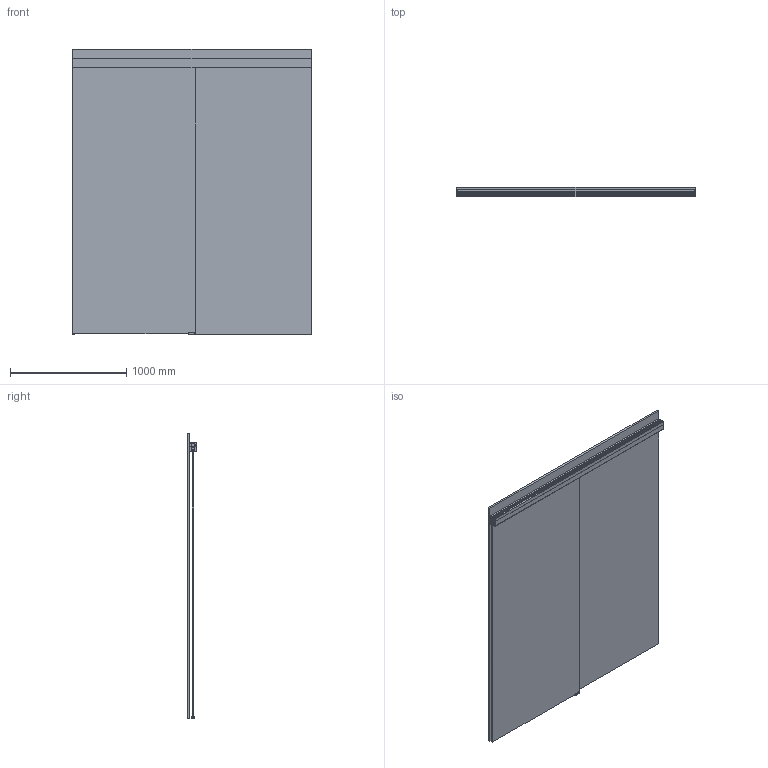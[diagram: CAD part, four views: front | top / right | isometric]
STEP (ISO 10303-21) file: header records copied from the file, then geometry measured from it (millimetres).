
FILE_DESCRIPTION(('STEP AP242'),'1');
FILE_NAME('OPO_56.047.05.stp','2026-01-14T05:21:20',(' '),(' '),'Spatial InterOp 3D',' ',' ');
FILE_SCHEMA(('AP242_MANAGED_MODEL_BASED_3D_ENGINEERING_MIM_LF {1 0 10303 442 1 1 4}'));
Length unit declared in the file: millimetre
Products named in the file (10): Zeichnung2; OPO_56.047.05_Bodenführung_Glas; OPO_65.083.42; OPO_65.082.78; OPO_56.047.05_Laufwerk; OPO_56.047.05_Laufwerk_mit_Daempfer; OPO_56.047.05_Aktivator; OPO_65.082.53; OPO_65.082.53_SCALED_id348_X-1_Y1_Z1; AutoCreatedBlock_1C4
Assembly tree (12 placements, depth 2):
  Zeichnung2
    OPO_56.047.05_Bodenführung_Glas
    OPO_65.083.42  x2
    OPO_65.082.78  x2
    OPO_56.047.05_Laufwerk
    OPO_56.047.05_Laufwerk_mit_Daempfer
    OPO_56.047.05_Aktivator  x2
    OPO_65.082.53
    OPO_65.082.53_SCALED_id348_X-1_Y1_Z1
    AutoCreatedBlock_1C4
Bounding box: 2050 x 80 x 2448 mm (x, y, z)
Volume: 78720442.9 mm3; surface area: 12070312.2 mm2
Topology: 75 solids, 75 shells, 1561 faces, 3966 edges, 2620 vertices
Faces by surface type: plane 913, cylinder 620, cone 28
Entity records: 45705 total; most frequent: CARTESIAN_POINT 6381, DIRECTION 6355, ORIENTED_EDGE 5958, EDGE_CURVE 2979, AXIS2_PLACEMENT_3D 2184, LINE 1987, VECTOR 1987, VERTEX_POINT 1972
